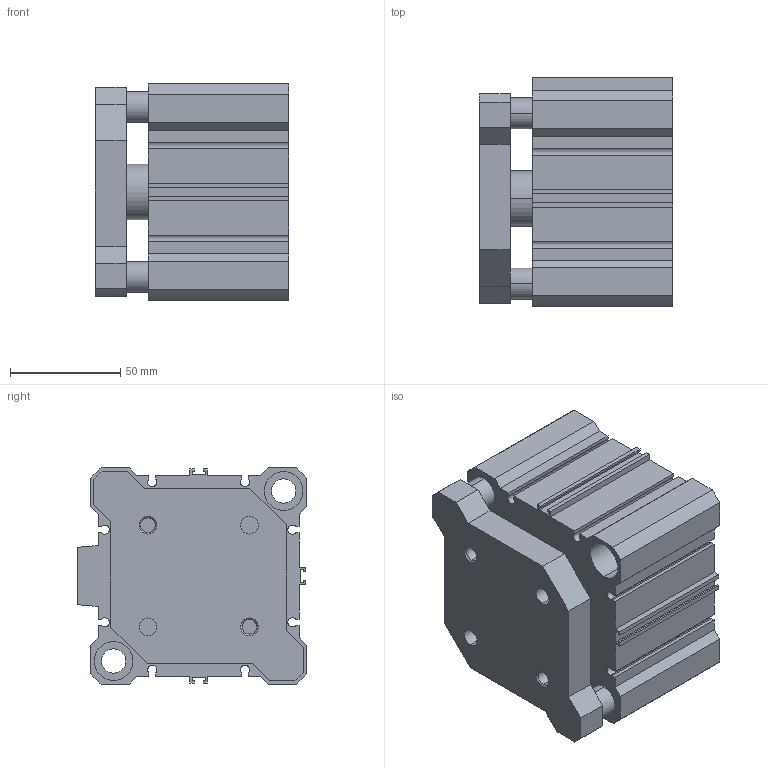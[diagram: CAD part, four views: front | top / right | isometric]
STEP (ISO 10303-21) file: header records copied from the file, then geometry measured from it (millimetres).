
FILE_DESCRIPTION (( 'STEP AP203' ), '1' );
FILE_NAME ('CCMG80-10.STEP', '2020-04-01T18:51:07', ( '' ), ( '' ), 'SwSTEP 2.0', 'SolidWorks 2019', '' );
FILE_SCHEMA (( 'CONFIG_CONTROL_DESIGN' ));
Length unit declared in the file: millimetre
Products named in the file (1): CCMG80-10
Bounding box: 87.5 x 104 x 98 mm (x, y, z)
Volume: 591838.5 mm3; surface area: 113318.4 mm2
Topology: 2 solids, 2 shells, 194 faces, 518 edges, 338 vertices
Faces by surface type: plane 114, cylinder 64, cone 16
Entity records: 6105 total; most frequent: CARTESIAN_POINT 1047, DIRECTION 1044, ORIENTED_EDGE 1028, EDGE_CURVE 514, VECTOR 374, LINE 374, VERTEX_POINT 338, AXIS2_PLACEMENT_3D 335
